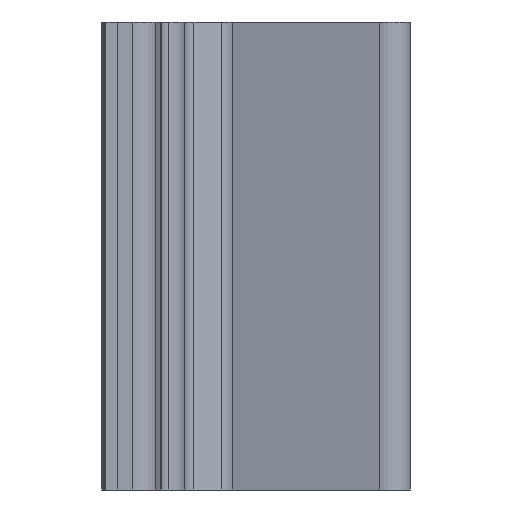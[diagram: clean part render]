
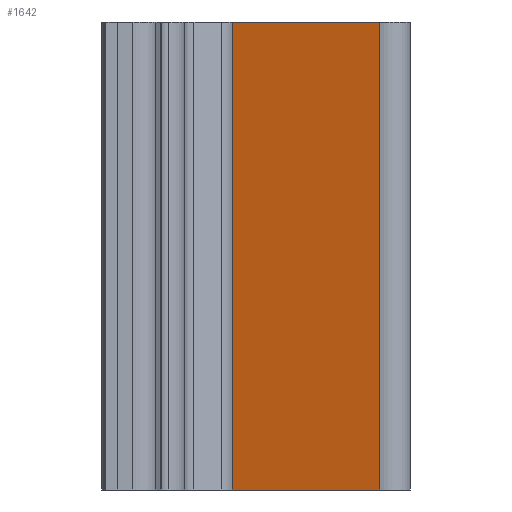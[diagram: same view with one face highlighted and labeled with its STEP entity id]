
A CAD part, left-side view. The second image highlights one B-rep face of the part: STEP entity #1642.
In plain terms, the highlighted planar face has unit normal (-0.954, 0.299, 0).
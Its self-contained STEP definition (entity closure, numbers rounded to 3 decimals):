
#909=CARTESIAN_POINT('',(-59.852,-3.802,-30.0));
#910=VERTEX_POINT('',#909);
#918=CARTESIAN_POINT('',(-53.928,15.132,-30.0));
#919=VERTEX_POINT('',#918);
#920=CARTESIAN_POINT('',(-53.928,15.132,-30.0));
#921=DIRECTION('',(-0.299,-0.954,0.0));
#922=VECTOR('',#921,19.838);
#923=LINE('',#920,#922);
#924=EDGE_CURVE('',#919,#910,#923,.T.);
#1599=CARTESIAN_POINT('',(-59.852,-3.802,30.));
#1600=VERTEX_POINT('',#1599);
#1608=CARTESIAN_POINT('',(-59.852,-3.802,-30.0));
#1609=DIRECTION('',(0.0,0.0,1.0));
#1610=VECTOR('',#1609,60.);
#1611=LINE('',#1608,#1610);
#1612=EDGE_CURVE('',#910,#1600,#1611,.T.);
#1619=CARTESIAN_POINT('',(-59.852,-3.802,-30.0));
#1620=DIRECTION('',(-0.954,0.299,0.0));
#1621=DIRECTION('',(0.0,0.0,1.0));
#1622=AXIS2_PLACEMENT_3D('',#1619,#1620,#1621);
#1623=PLANE('',#1622);
#1624=CARTESIAN_POINT('',(-53.928,15.132,30.));
#1625=VERTEX_POINT('',#1624);
#1626=CARTESIAN_POINT('',(-59.852,-3.802,30.0));
#1627=DIRECTION('',(0.299,0.954,0.0));
#1628=VECTOR('',#1627,19.838);
#1629=LINE('',#1626,#1628);
#1630=EDGE_CURVE('',#1600,#1625,#1629,.T.);
#1631=ORIENTED_EDGE('',*,*,#1630,.T.);
#1632=CARTESIAN_POINT('',(-53.928,15.132,-30.0));
#1633=DIRECTION('',(0.0,0.0,1.0));
#1634=VECTOR('',#1633,60.);
#1635=LINE('',#1632,#1634);
#1636=EDGE_CURVE('',#919,#1625,#1635,.T.);
#1637=ORIENTED_EDGE('',*,*,#1636,.F.);
#1638=ORIENTED_EDGE('',*,*,#924,.T.);
#1639=ORIENTED_EDGE('',*,*,#1612,.T.);
#1640=EDGE_LOOP('',(#1631,#1637,#1638,#1639));
#1641=FACE_OUTER_BOUND('',#1640,.T.);
#1642=ADVANCED_FACE('',(#1641),#1623,.T.);
